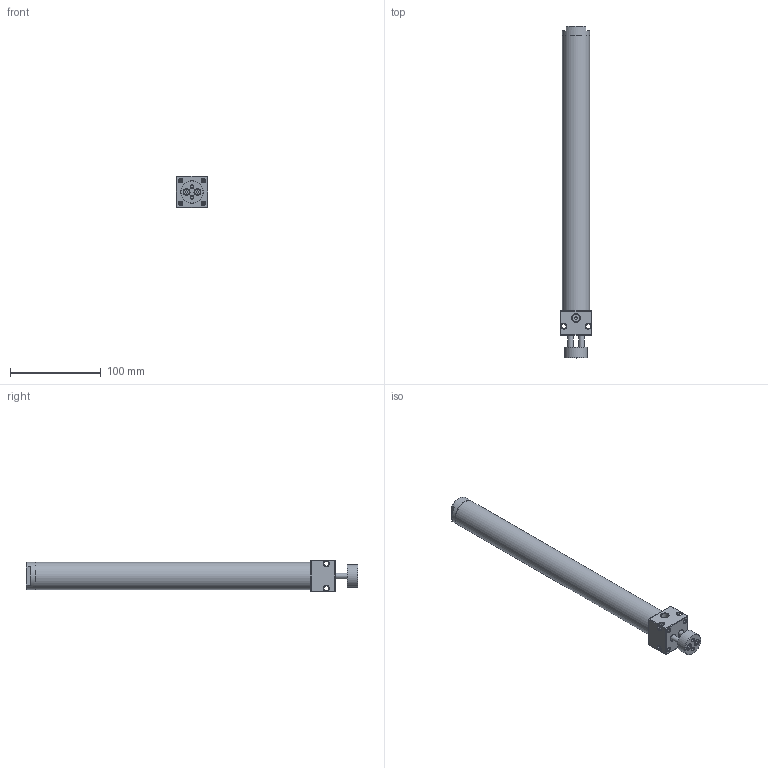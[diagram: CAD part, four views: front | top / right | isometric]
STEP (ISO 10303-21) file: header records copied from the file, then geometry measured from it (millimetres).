
FILE_DESCRIPTION((''),'2;1');
FILE_NAME('I:\3D電子目錄\氣缸\DBT\DBT\DBT25\DBT25x250.stp','2007-10-08T08:57:43',('Administrator'),(''),'Autodesk Inventor 2008','Autodesk Inventor 2008','');
FILE_SCHEMA(('AUTOMOTIVE_DESIGN { 1 0 10303 214 1 1 1 1 }'));
Length unit declared in the file: millimetre
Products named in the file (1): DBT25x250
Bounding box: 35 x 366 x 35 mm (x, y, z)
Volume: 113174.7 mm3; surface area: 72457.6 mm2
Topology: 1 solids, 5 shells, 172 faces, 396 edges, 239 vertices
Faces by surface type: plane 57, bspline 54, cone 38, cylinder 23
Full cylindrical faces by diameter (mm): 3 x1, 3.4 x1, 4 x1, 6 x3, 6.5 x1, 7 x1, 8 x1, 9 x1, 16 x1, 23.8 x2, 25 x2, 25.8 x2, 27 x2, 27.2 x2, 30 x2
Entity records: 5091 total; most frequent: CARTESIAN_POINT 1849, DIRECTION 622, ORIENTED_EDGE 548, EDGE_LOOP 308, EDGE_CURVE 274, AXIS2_PLACEMENT_3D 265, VERTEX_POINT 212, FACE_OUTER_BOUND 172
